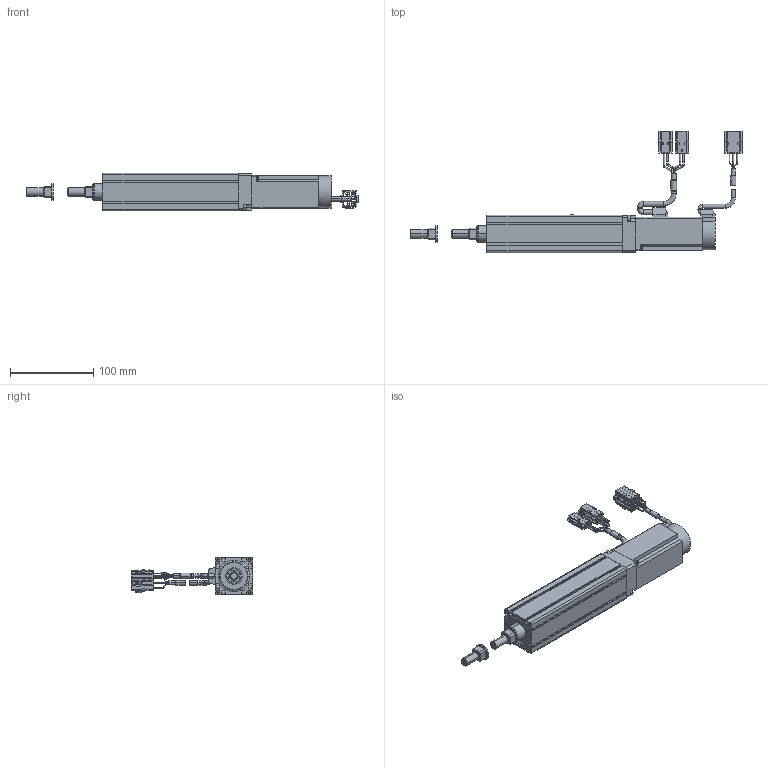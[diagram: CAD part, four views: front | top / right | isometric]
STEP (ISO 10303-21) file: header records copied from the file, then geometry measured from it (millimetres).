
FILE_DESCRIPTION((''),'2;1');
FILE_NAME('BET4D-ST-C_B-05_IGS_PRT','2017-06-18T',(' '),(''),'PRO/ENGINEER BY PARAMETRIC TECHNOLOGY CORPORATION, 2015030','PRO/ENGINEER BY PARAMETRIC TECHNOLOGY CORPORATION, 2015030','');
FILE_SCHEMA(('CONFIG_CONTROL_DESIGN'));
Length unit declared in the file: millimetre
Products named in the file (1): BET4D-ST-C_B-05_IGS_PRT
Bounding box: 399 x 145.7 x 45 mm (x, y, z)
Volume: 404541.7 mm3; surface area: 127624.7 mm2
Topology: 6 solids, 30 shells, 930 faces, 2457 edges, 1597 vertices
Faces by surface type: plane 606, cylinder 234, torus 68, cone 18, sphere 4
Entity records: 28997 total; most frequent: CARTESIAN_POINT 5371, DIRECTION 4895, ORIENTED_EDGE 4850, EDGE_CURVE 2453, VECTOR 1787, LINE 1787, VERTEX_POINT 1597, AXIS2_PLACEMENT_3D 1554
